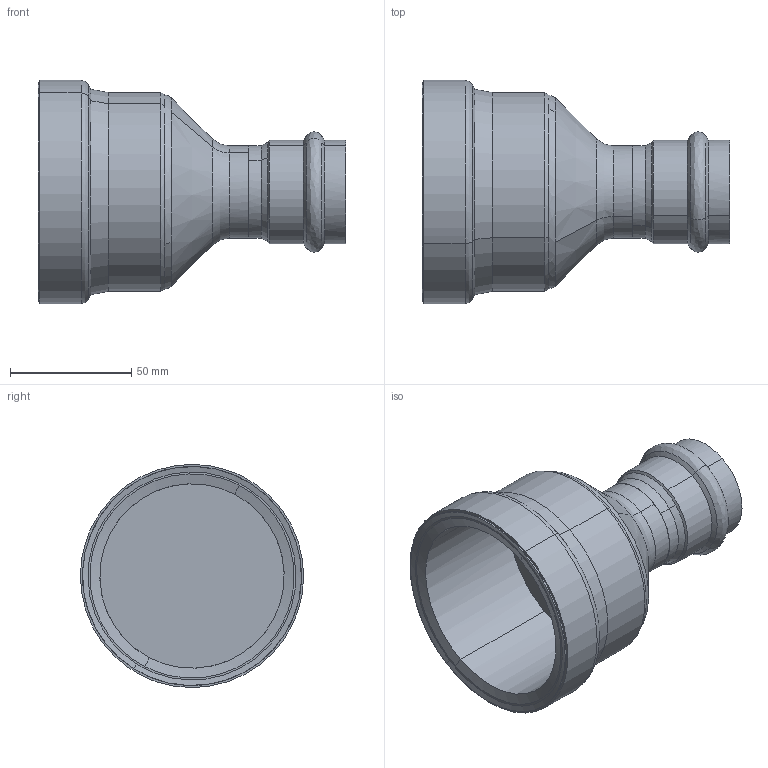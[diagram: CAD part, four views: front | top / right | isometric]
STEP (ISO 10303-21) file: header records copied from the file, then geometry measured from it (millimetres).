
FILE_DESCRIPTION(('STEP AP214'),'1');
FILE_NAME('pim0004399.stp','2015-04-30T11:43:31',('Cad-Pim'),('TransMagic, Inc.'),'TMR11sp0','TransMagic R11',' ');
FILE_SCHEMA(('AUTOMOTIVE_DESIGN'));
Length unit declared in the file: millimetre
Products named in the file (1): pim0004399
Bounding box: 126.77 x 91.99 x 91.99 mm (x, y, z)
Volume: 178139.6 mm3; surface area: 51417.7 mm2
Topology: 1 solids, 1 shells, 52 faces, 138 edges, 92 vertices
Faces by surface type: cone 20, cylinder 18, bspline 14
Entity records: 2426 total; most frequent: CARTESIAN_POINT 867, ORIENTED_EDGE 276, DIRECTION 200, EDGE_CURVE 138, VERTEX_POINT 92, AXIS2_PLACEMENT_3D 81, EDGE_LOOP 56, STYLED_ITEM 53
